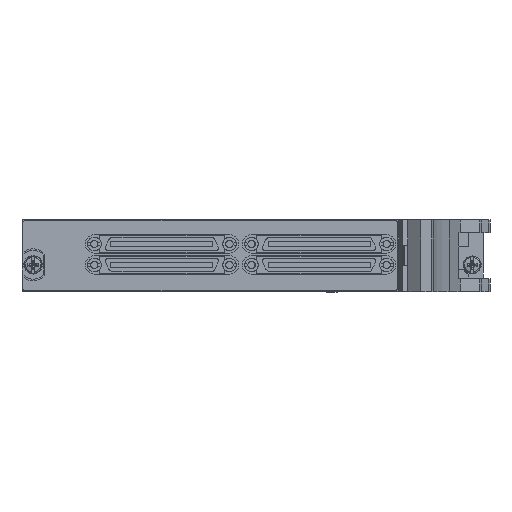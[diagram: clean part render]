
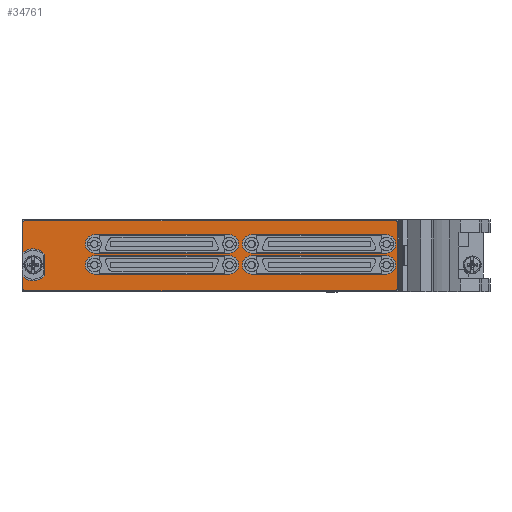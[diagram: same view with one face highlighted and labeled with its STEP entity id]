
A CAD part, left-side view. The second image highlights one B-rep face of the part: STEP entity #34761.
In plain terms, the highlighted planar face has unit normal (-1, 0, 0).
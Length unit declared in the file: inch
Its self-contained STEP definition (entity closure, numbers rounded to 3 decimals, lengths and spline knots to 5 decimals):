
#1975=CARTESIAN_POINT('',(-0.215,0.53465,0.665));
#1976=DIRECTION('',(-1.,0.,0.));
#1977=DIRECTION('',(0.,0.,1.));
#1978=AXIS2_PLACEMENT_3D('',#1975,#1976,#1977);
#1980=DIRECTION('',(0.,1.,0.));
#1981=VECTOR('',#1980,4.07);
#1982=CARTESIAN_POINT('',(-0.215,-3.53535,0.685));
#1983=LINE('',#1982,#1981);
#1984=CARTESIAN_POINT('',(-0.215,-3.53535,0.665));
#1985=DIRECTION('',(-1.,0.,0.));
#1986=DIRECTION('',(0.,-1.,0.));
#1987=AXIS2_PLACEMENT_3D('',#1984,#1985,#1986);
#1989=DIRECTION('',(0.,0.,1.));
#1990=VECTOR('',#1989,0.728);
#1991=CARTESIAN_POINT('',(-0.215,-3.55535,-0.063));
#1992=LINE('',#1991,#1990);
#1993=CARTESIAN_POINT('',(-0.215,-3.53535,-0.063));
#1994=DIRECTION('',(-1.,0.,0.));
#1995=DIRECTION('',(0.,0.,-1.));
#1996=AXIS2_PLACEMENT_3D('',#1993,#1994,#1995);
#1998=DIRECTION('',(0.,-1.,0.));
#1999=VECTOR('',#1998,4.07);
#2000=CARTESIAN_POINT('',(-0.215,0.53465,-0.083));
#2001=LINE('',#2000,#1999);
#2002=CARTESIAN_POINT('',(-0.215,0.53465,-0.063));
#2003=DIRECTION('',(-1.,0.,0.));
#2004=DIRECTION('',(0.,1.,0.));
#2005=AXIS2_PLACEMENT_3D('',#2002,#2003,#2004);
#2007=DIRECTION('',(0.,0.,-1.));
#2008=VECTOR('',#2007,0.12953);
#2009=CARTESIAN_POINT('',(-0.215,0.55465,0.06653));
#2010=LINE('',#2009,#2008);
#2011=CARTESIAN_POINT('',(-0.215,0.44265,0.201));
#2012=DIRECTION('',(1.,0.,0.));
#2013=DIRECTION('',(0.,-0.737,-0.676));
#2014=AXIS2_PLACEMENT_3D('',#2011,#2012,#2013);
#2016=DIRECTION('',(0.,0.,-1.));
#2017=VECTOR('',#2016,0.23651);
#2018=CARTESIAN_POINT('',(-0.215,0.31365,0.31925));
#2019=LINE('',#2018,#2017);
#2020=CARTESIAN_POINT('',(-0.215,0.44265,0.201));
#2021=DIRECTION('',(1.,0.,0.));
#2022=DIRECTION('',(0.,0.64,0.768));
#2023=AXIS2_PLACEMENT_3D('',#2020,#2021,#2022);
#2025=DIRECTION('',(0.,0.,-1.));
#2026=VECTOR('',#2025,0.32953);
#2027=CARTESIAN_POINT('',(-0.215,0.55465,0.665));
#2028=LINE('',#2027,#2026);
#2029=CARTESIAN_POINT('',(-0.215,-0.22927,0.42972));
#2030=DIRECTION('',(-1.,0.,0.));
#2031=DIRECTION('',(0.,0.,1.));
#2032=AXIS2_PLACEMENT_3D('',#2029,#2030,#2031);
#2034=DIRECTION('',(0.,-1.,0.));
#2035=VECTOR('',#2034,1.48425);
#2036=CARTESIAN_POINT('',(-0.215,-0.22927,0.32972));
#2037=LINE('',#2036,#2035);
#2038=CARTESIAN_POINT('',(-0.215,-1.71353,0.42972));
#2039=DIRECTION('',(-1.,0.,0.));
#2040=DIRECTION('',(0.,0.,-1.));
#2041=AXIS2_PLACEMENT_3D('',#2038,#2039,#2040);
#2043=DIRECTION('',(0.,1.,0.));
#2044=VECTOR('',#2043,1.48425);
#2045=CARTESIAN_POINT('',(-0.215,-1.71353,0.52972));
#2046=LINE('',#2045,#2044);
#2047=CARTESIAN_POINT('',(-0.215,-0.22927,0.1998));
#2048=DIRECTION('',(-1.,0.,0.));
#2049=DIRECTION('',(0.,0.,1.));
#2050=AXIS2_PLACEMENT_3D('',#2047,#2048,#2049);
#2052=DIRECTION('',(0.,-1.,0.));
#2053=VECTOR('',#2052,1.48425);
#2054=CARTESIAN_POINT('',(-0.215,-0.22927,0.0998));
#2055=LINE('',#2054,#2053);
#2056=CARTESIAN_POINT('',(-0.215,-1.71353,0.1998));
#2057=DIRECTION('',(-1.,0.,0.));
#2058=DIRECTION('',(0.,0.,-1.));
#2059=AXIS2_PLACEMENT_3D('',#2056,#2057,#2058);
#2061=DIRECTION('',(0.,1.,0.));
#2062=VECTOR('',#2061,1.48425);
#2063=CARTESIAN_POINT('',(-0.215,-1.71353,0.2998));
#2064=LINE('',#2063,#2062);
#2065=CARTESIAN_POINT('',(-0.215,-1.95454,0.42972));
#2066=DIRECTION('',(-1.,0.,0.));
#2067=DIRECTION('',(0.,0.,1.));
#2068=AXIS2_PLACEMENT_3D('',#2065,#2066,#2067);
#2070=DIRECTION('',(0.,-1.,0.));
#2071=VECTOR('',#2070,1.48425);
#2072=CARTESIAN_POINT('',(-0.215,-1.95454,0.32972));
#2073=LINE('',#2072,#2071);
#2074=CARTESIAN_POINT('',(-0.215,-3.43879,0.42972));
#2075=DIRECTION('',(-1.,0.,0.));
#2076=DIRECTION('',(0.,0.,-1.));
#2077=AXIS2_PLACEMENT_3D('',#2074,#2075,#2076);
#2079=DIRECTION('',(0.,1.,0.));
#2080=VECTOR('',#2079,1.48425);
#2081=CARTESIAN_POINT('',(-0.215,-3.43879,0.52972));
#2082=LINE('',#2081,#2080);
#2083=CARTESIAN_POINT('',(-0.215,-1.95454,0.1998));
#2084=DIRECTION('',(-1.,0.,0.));
#2085=DIRECTION('',(0.,0.,1.));
#2086=AXIS2_PLACEMENT_3D('',#2083,#2084,#2085);
#2088=DIRECTION('',(0.,-1.,0.));
#2089=VECTOR('',#2088,1.48425);
#2090=CARTESIAN_POINT('',(-0.215,-1.95454,0.0998));
#2091=LINE('',#2090,#2089);
#2092=CARTESIAN_POINT('',(-0.215,-3.43879,0.1998));
#2093=DIRECTION('',(-1.,0.,0.));
#2094=DIRECTION('',(0.,0.,-1.));
#2095=AXIS2_PLACEMENT_3D('',#2092,#2093,#2094);
#2097=DIRECTION('',(0.,1.,0.));
#2098=VECTOR('',#2097,1.48425);
#2099=CARTESIAN_POINT('',(-0.215,-3.43879,0.2998));
#2100=LINE('',#2099,#2098);
#26578=CARTESIAN_POINT('',(-0.215,0.53465,0.685));
#26579=CARTESIAN_POINT('',(-0.215,0.55465,0.665));
#26580=VERTEX_POINT('',#26578);
#26581=VERTEX_POINT('',#26579);
#26582=CARTESIAN_POINT('',(-0.215,0.55465,0.33547));
#26583=VERTEX_POINT('',#26582);
#26584=CARTESIAN_POINT('',(-0.215,0.31365,0.31925));
#26585=VERTEX_POINT('',#26584);
#26586=CARTESIAN_POINT('',(-0.215,0.31365,0.08275));
#26587=VERTEX_POINT('',#26586);
#26588=CARTESIAN_POINT('',(-0.215,0.55465,0.06653));
#26589=VERTEX_POINT('',#26588);
#26590=CARTESIAN_POINT('',(-0.215,0.55465,-0.063));
#26591=VERTEX_POINT('',#26590);
#26592=CARTESIAN_POINT('',(-0.215,0.53465,-0.083));
#26593=VERTEX_POINT('',#26592);
#26594=CARTESIAN_POINT('',(-0.215,-3.53535,-0.083));
#26595=VERTEX_POINT('',#26594);
#26596=CARTESIAN_POINT('',(-0.215,-3.55535,-0.063));
#26597=VERTEX_POINT('',#26596);
#26598=CARTESIAN_POINT('',(-0.215,-3.55535,0.665));
#26599=VERTEX_POINT('',#26598);
#26600=CARTESIAN_POINT('',(-0.215,-3.53535,0.685));
#26601=VERTEX_POINT('',#26600);
#26602=CARTESIAN_POINT('',(-0.215,-0.22927,0.52972));
#26603=CARTESIAN_POINT('',(-0.215,-0.22927,0.32972));
#26604=VERTEX_POINT('',#26602);
#26605=VERTEX_POINT('',#26603);
#26606=CARTESIAN_POINT('',(-0.215,-1.71353,0.32972));
#26607=VERTEX_POINT('',#26606);
#26608=CARTESIAN_POINT('',(-0.215,-1.71353,0.52972));
#26609=VERTEX_POINT('',#26608);
#26610=CARTESIAN_POINT('',(-0.215,-0.22927,0.2998));
#26611=CARTESIAN_POINT('',(-0.215,-0.22927,0.0998));
#26612=VERTEX_POINT('',#26610);
#26613=VERTEX_POINT('',#26611);
#26614=CARTESIAN_POINT('',(-0.215,-1.71353,0.0998));
#26615=VERTEX_POINT('',#26614);
#26616=CARTESIAN_POINT('',(-0.215,-1.71353,0.2998));
#26617=VERTEX_POINT('',#26616);
#26618=CARTESIAN_POINT('',(-0.215,-1.95454,0.52972));
#26619=CARTESIAN_POINT('',(-0.215,-1.95454,0.32972));
#26620=VERTEX_POINT('',#26618);
#26621=VERTEX_POINT('',#26619);
#26622=CARTESIAN_POINT('',(-0.215,-3.43879,0.32972));
#26623=VERTEX_POINT('',#26622);
#26624=CARTESIAN_POINT('',(-0.215,-3.43879,0.52972));
#26625=VERTEX_POINT('',#26624);
#26626=CARTESIAN_POINT('',(-0.215,-1.95454,0.2998));
#26627=CARTESIAN_POINT('',(-0.215,-1.95454,0.0998));
#26628=VERTEX_POINT('',#26626);
#26629=VERTEX_POINT('',#26627);
#26630=CARTESIAN_POINT('',(-0.215,-3.43879,0.0998));
#26631=VERTEX_POINT('',#26630);
#26632=CARTESIAN_POINT('',(-0.215,-3.43879,0.2998));
#26633=VERTEX_POINT('',#26632);
#34694=CARTESIAN_POINT('',(-0.215,0.44265,0.201));
#34695=DIRECTION('',(-1.,0.,0.));
#34696=DIRECTION('',(0.,0.,1.));
#34697=AXIS2_PLACEMENT_3D('',#34694,#34695,#34696);
#34698=PLANE('',#34697);
#34700=ORIENTED_EDGE('',*,*,#34699,.F.);
#34702=ORIENTED_EDGE('',*,*,#34701,.F.);
#34704=ORIENTED_EDGE('',*,*,#34703,.F.);
#34706=ORIENTED_EDGE('',*,*,#34705,.F.);
#34708=ORIENTED_EDGE('',*,*,#34707,.F.);
#34710=ORIENTED_EDGE('',*,*,#34709,.F.);
#34712=ORIENTED_EDGE('',*,*,#34711,.F.);
#34714=ORIENTED_EDGE('',*,*,#34713,.F.);
#34716=ORIENTED_EDGE('',*,*,#34715,.F.);
#34718=ORIENTED_EDGE('',*,*,#34717,.F.);
#34720=ORIENTED_EDGE('',*,*,#34719,.F.);
#34722=ORIENTED_EDGE('',*,*,#34721,.F.);
#34723=EDGE_LOOP('',(#34700,#34702,#34704,#34706,#34708,#34710,#34712,#34714,
#34716,#34718,#34720,#34722));
#34724=FACE_OUTER_BOUND('',#34723,.F.);
#34726=ORIENTED_EDGE('',*,*,#34725,.T.);
#34728=ORIENTED_EDGE('',*,*,#34727,.T.);
#34730=ORIENTED_EDGE('',*,*,#34729,.T.);
#34732=ORIENTED_EDGE('',*,*,#34731,.T.);
#34733=EDGE_LOOP('',(#34726,#34728,#34730,#34732));
#34734=FACE_BOUND('',#34733,.F.);
#34735=ORIENTED_EDGE('',*,*,#34646,.T.);
#34736=ORIENTED_EDGE('',*,*,#34661,.T.);
#34737=ORIENTED_EDGE('',*,*,#34675,.T.);
#34738=ORIENTED_EDGE('',*,*,#34688,.T.);
#34739=EDGE_LOOP('',(#34735,#34736,#34737,#34738));
#34740=FACE_BOUND('',#34739,.F.);
#34742=ORIENTED_EDGE('',*,*,#34741,.T.);
#34744=ORIENTED_EDGE('',*,*,#34743,.T.);
#34746=ORIENTED_EDGE('',*,*,#34745,.T.);
#34748=ORIENTED_EDGE('',*,*,#34747,.T.);
#34749=EDGE_LOOP('',(#34742,#34744,#34746,#34748));
#34750=FACE_BOUND('',#34749,.F.);
#34752=ORIENTED_EDGE('',*,*,#34751,.T.);
#34754=ORIENTED_EDGE('',*,*,#34753,.T.);
#34756=ORIENTED_EDGE('',*,*,#34755,.T.);
#34758=ORIENTED_EDGE('',*,*,#34757,.T.);
#34759=EDGE_LOOP('',(#34752,#34754,#34756,#34758));
#34760=FACE_BOUND('',#34759,.F.);
#34761=ADVANCED_FACE('',(#34724,#34734,#34740,#34750,#34760),#34698,.T.);
#1979=CIRCLE('',#1978,0.02);
#1988=CIRCLE('',#1987,0.02);
#1997=CIRCLE('',#1996,0.02);
#2006=CIRCLE('',#2005,0.02);
#2015=CIRCLE('',#2014,0.175);
#2024=CIRCLE('',#2023,0.175);
#2033=CIRCLE('',#2032,0.1);
#2042=CIRCLE('',#2041,0.1);
#2051=CIRCLE('',#2050,0.1);
#2060=CIRCLE('',#2059,0.1);
#2069=CIRCLE('',#2068,0.1);
#2078=CIRCLE('',#2077,0.1);
#2087=CIRCLE('',#2086,0.1);
#2096=CIRCLE('',#2095,0.1);
#34646=EDGE_CURVE('',#26612,#26613,#2051,.T.);
#34661=EDGE_CURVE('',#26613,#26615,#2055,.T.);
#34675=EDGE_CURVE('',#26615,#26617,#2060,.T.);
#34688=EDGE_CURVE('',#26617,#26612,#2064,.T.);
#34699=EDGE_CURVE('',#26580,#26581,#1979,.T.);
#34701=EDGE_CURVE('',#26601,#26580,#1983,.T.);
#34703=EDGE_CURVE('',#26599,#26601,#1988,.T.);
#34705=EDGE_CURVE('',#26597,#26599,#1992,.T.);
#34707=EDGE_CURVE('',#26595,#26597,#1997,.T.);
#34709=EDGE_CURVE('',#26593,#26595,#2001,.T.);
#34711=EDGE_CURVE('',#26591,#26593,#2006,.T.);
#34713=EDGE_CURVE('',#26589,#26591,#2010,.T.);
#34715=EDGE_CURVE('',#26587,#26589,#2015,.T.);
#34717=EDGE_CURVE('',#26585,#26587,#2019,.T.);
#34719=EDGE_CURVE('',#26583,#26585,#2024,.T.);
#34721=EDGE_CURVE('',#26581,#26583,#2028,.T.);
#34725=EDGE_CURVE('',#26604,#26605,#2033,.T.);
#34727=EDGE_CURVE('',#26605,#26607,#2037,.T.);
#34729=EDGE_CURVE('',#26607,#26609,#2042,.T.);
#34731=EDGE_CURVE('',#26609,#26604,#2046,.T.);
#34741=EDGE_CURVE('',#26620,#26621,#2069,.T.);
#34743=EDGE_CURVE('',#26621,#26623,#2073,.T.);
#34745=EDGE_CURVE('',#26623,#26625,#2078,.T.);
#34747=EDGE_CURVE('',#26625,#26620,#2082,.T.);
#34751=EDGE_CURVE('',#26628,#26629,#2087,.T.);
#34753=EDGE_CURVE('',#26629,#26631,#2091,.T.);
#34755=EDGE_CURVE('',#26631,#26633,#2096,.T.);
#34757=EDGE_CURVE('',#26633,#26628,#2100,.T.);
